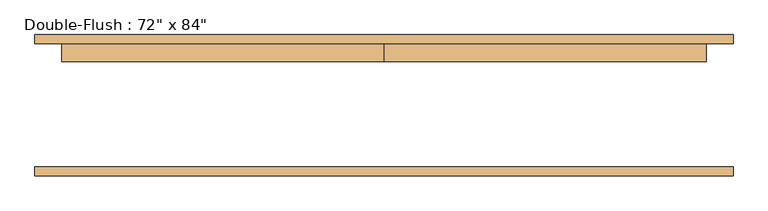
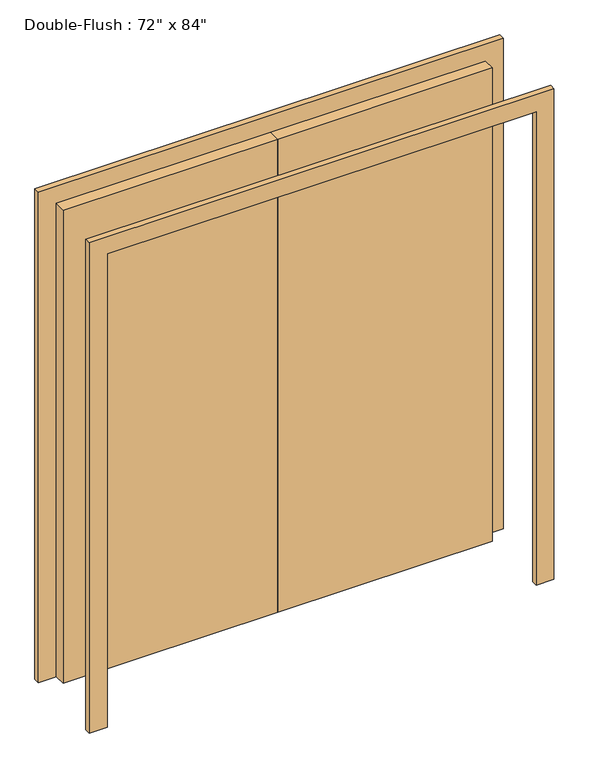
"""IFC4 building model written with IfcOpenShell, lengths in millimetres: door geometry."""

from ifc_helpers import new_model, si_unit, frame, origin, origin_with_axes, place, context, project, spatial, polyline, outline, extrude, source, transform, mapped, element, save


def door_bd9614a2(model_context):
    return source(origin(), model_context, "Body", "SweptSolid", [
        extrude(outline(polyline([(0.0, 175.0), (914.4, 175.0), (914.4, 124.2), (0.0, 124.2), (0.0, 175.0)])), origin_with_axes(), (0.0, 0.0, 1.0), 2133.6),
        extrude(outline(polyline([(-914.4, 175.0), (0.0, 175.0), (0.0, 124.2), (-914.4, 124.2), (-914.4, 175.0)])), origin_with_axes(), (0.0, 0.0, 1.0), 2133.6),
        extrude(outline(polyline([(2133.6, -914.4), (2133.6, 914.4), (0.0, 914.4), (0.0, 990.6), (2209.8, 990.6), (2209.8, -990.6), (0.0, -990.6), (0.0, -914.4), (2133.6, -914.4)])), frame((0.0, -200.4, 0.0), z_axis=(0.0, 1.0, 0.0), x_axis=(0.0, 0.0, 1.0)), (0.0, 0.0, 1.0), 25.4),
        extrude(outline(polyline([(2133.6, -914.4), (2133.6, 914.4), (0.0, 914.4), (0.0, 990.6), (2209.8, 990.6), (2209.8, -990.6), (0.0, -990.6), (0.0, -914.4), (2133.6, -914.4)])), frame((0.0, 175.0, 0.0), z_axis=(0.0, 1.0, 0.0), x_axis=(0.0, 0.0, 1.0)), (0.0, 0.0, 1.0), 25.4),
    ])


if __name__ == "__main__":
    model = new_model("IFC4")
    model_context = context("Model", 3, world=origin())
    ifc_project = project(units=[si_unit("LENGTHUNIT", "METRE", prefix="MILLI")], contexts=[model_context])
    site = spatial("IfcSite", under=ifc_project)
    building = spatial("IfcBuilding", under=site)
    placement = place(None, origin())
    door_shape = door_bd9614a2(model_context)
    element("IfcDoor", 1, ObjectType="Double-Flush : 72\" x 84\"", at=placement, inside=building, context=model_context, shape_type="MappedRepresentation", body=[
        mapped(door_shape, transform((0.0, 0.0, 0.0), x_axis=(1.0, 0.0, 0.0), y_axis=(0.0, 1.0, 0.0), z_axis=(0.0, 0.0, 1.0))),
    ])
    save(model, "model.ifc")
